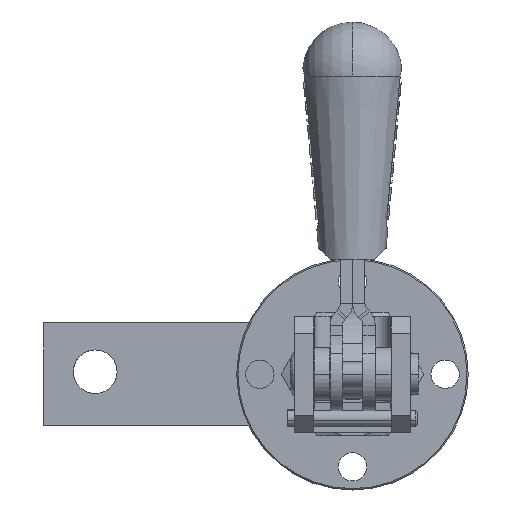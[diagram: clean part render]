
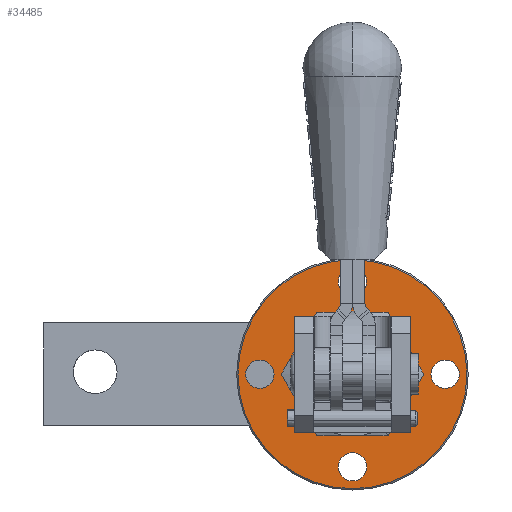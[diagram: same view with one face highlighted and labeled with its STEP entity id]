
A CAD part, front view. The second image highlights one B-rep face of the part: STEP entity #34485.
In plain terms, the highlighted planar face has unit normal (0, -1, 0).
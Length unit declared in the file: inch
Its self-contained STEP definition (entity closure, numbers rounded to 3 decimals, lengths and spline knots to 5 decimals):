
#31751=CARTESIAN_POINT('',(0.,-0.23622,0.));
#31752=DIRECTION('',(0.,-1.,0.));
#31753=DIRECTION('',(0.,0.,-1.));
#31754=AXIS2_PLACEMENT_3D('',#31751,#31752,#31753);
#31759=CARTESIAN_POINT('',(0.,-0.23622,0.));
#31760=DIRECTION('',(0.,-1.,0.));
#31761=DIRECTION('',(0.,0.,1.));
#31762=AXIS2_PLACEMENT_3D('',#31759,#31760,#31761);
#31767=CARTESIAN_POINT('',(0.,-0.23622,0.));
#31768=DIRECTION('',(0.,1.,0.));
#31769=DIRECTION('',(0.,0.,-1.));
#31770=AXIS2_PLACEMENT_3D('',#31767,#31768,#31769);
#31775=CARTESIAN_POINT('',(0.,-0.23622,0.));
#31776=DIRECTION('',(0.,1.,0.));
#31777=DIRECTION('',(0.,0.,1.));
#31778=AXIS2_PLACEMENT_3D('',#31775,#31776,#31777);
#31783=CARTESIAN_POINT('',(-0.70866,-0.23622,0.));
#31784=DIRECTION('',(0.,1.,0.));
#31785=DIRECTION('',(1.,0.,0.));
#31786=AXIS2_PLACEMENT_3D('',#31783,#31784,#31785);
#31791=CARTESIAN_POINT('',(-0.70866,-0.23622,0.));
#31792=DIRECTION('',(0.,1.,0.));
#31793=DIRECTION('',(-1.,0.,0.));
#31794=AXIS2_PLACEMENT_3D('',#31791,#31792,#31793);
#31799=CARTESIAN_POINT('',(0.,-0.23622,-0.70866));
#31800=DIRECTION('',(0.,1.,0.));
#31801=DIRECTION('',(0.,0.,1.));
#31802=AXIS2_PLACEMENT_3D('',#31799,#31800,#31801);
#31807=CARTESIAN_POINT('',(0.,-0.23622,-0.70866));
#31808=DIRECTION('',(0.,1.,0.));
#31809=DIRECTION('',(0.,0.,-1.));
#31810=AXIS2_PLACEMENT_3D('',#31807,#31808,#31809);
#31815=CARTESIAN_POINT('',(0.70866,-0.23622,0.));
#31816=DIRECTION('',(0.,1.,0.));
#31817=DIRECTION('',(-1.,0.,0.));
#31818=AXIS2_PLACEMENT_3D('',#31815,#31816,#31817);
#31823=CARTESIAN_POINT('',(0.70866,-0.23622,0.));
#31824=DIRECTION('',(0.,1.,0.));
#31825=DIRECTION('',(1.,0.,0.));
#31826=AXIS2_PLACEMENT_3D('',#31823,#31824,#31825);
#31831=CARTESIAN_POINT('',(0.,-0.23622,0.70866));
#31832=DIRECTION('',(0.,1.,0.));
#31833=DIRECTION('',(0.,0.,-1.));
#31834=AXIS2_PLACEMENT_3D('',#31831,#31832,#31833);
#31839=CARTESIAN_POINT('',(0.,-0.23622,0.70866));
#31840=DIRECTION('',(0.,1.,0.));
#31841=DIRECTION('',(0.,0.,1.));
#31842=AXIS2_PLACEMENT_3D('',#31839,#31840,#31841);
#32198=CARTESIAN_POINT('',(0.,-0.23622,0.81693));
#32199=CARTESIAN_POINT('',(0.,-0.23622,0.60039));
#32200=VERTEX_POINT('',#32198);
#32201=VERTEX_POINT('',#32199);
#32245=CARTESIAN_POINT('',(0.,-0.23622,-0.81693));
#32247=VERTEX_POINT('',#32245);
#32315=CARTESIAN_POINT('',(0.,-0.23622,-0.60039));
#32316=VERTEX_POINT('',#32315);
#32321=CARTESIAN_POINT('',(0.60039,-0.23622,0.));
#32322=CARTESIAN_POINT('',(0.81693,-0.23622,0.));
#32323=VERTEX_POINT('',#32321);
#32324=VERTEX_POINT('',#32322);
#32325=CARTESIAN_POINT('',(0.,-0.23622,-0.87598));
#32326=VERTEX_POINT('',#32325);
#32353=CARTESIAN_POINT('',(0.,-0.23622,0.87598));
#32354=VERTEX_POINT('',#32353);
#32360=CARTESIAN_POINT('',(-0.81693,-0.23622,0.));
#32362=VERTEX_POINT('',#32360);
#32389=CARTESIAN_POINT('',(0.,-0.23622,0.3987));
#32390=VERTEX_POINT('',#32389);
#32399=CARTESIAN_POINT('',(0.,-0.23622,-0.3987));
#32400=VERTEX_POINT('',#32399);
#32415=CARTESIAN_POINT('',(-0.60039,-0.23622,0.));
#32416=VERTEX_POINT('',#32415);
#34445=CARTESIAN_POINT('',(0.,-0.23622,-0.88583));
#34446=DIRECTION('',(0.,1.,0.));
#34447=DIRECTION('',(0.,0.,1.));
#34448=AXIS2_PLACEMENT_3D('',#34445,#34446,#34447);
#34449=PLANE('',#34448);
#34450=ORIENTED_EDGE('',*,*,#34423,.F.);
#34452=ORIENTED_EDGE('',*,*,#34451,.F.);
#34453=EDGE_LOOP('',(#34450,#34452));
#34454=FACE_OUTER_BOUND('',#34453,.F.);
#34456=ORIENTED_EDGE('',*,*,#34455,.F.);
#34458=ORIENTED_EDGE('',*,*,#34457,.F.);
#34459=EDGE_LOOP('',(#34456,#34458));
#34460=FACE_BOUND('',#34459,.F.);
#34462=ORIENTED_EDGE('',*,*,#34461,.F.);
#34464=ORIENTED_EDGE('',*,*,#34463,.F.);
#34465=EDGE_LOOP('',(#34462,#34464));
#34466=FACE_BOUND('',#34465,.F.);
#34468=ORIENTED_EDGE('',*,*,#34467,.F.);
#34470=ORIENTED_EDGE('',*,*,#34469,.F.);
#34471=EDGE_LOOP('',(#34468,#34470));
#34472=FACE_BOUND('',#34471,.F.);
#34474=ORIENTED_EDGE('',*,*,#34473,.F.);
#34476=ORIENTED_EDGE('',*,*,#34475,.F.);
#34477=EDGE_LOOP('',(#34474,#34476));
#34478=FACE_BOUND('',#34477,.F.);
#34480=ORIENTED_EDGE('',*,*,#34479,.F.);
#34482=ORIENTED_EDGE('',*,*,#34481,.F.);
#34483=EDGE_LOOP('',(#34480,#34482));
#34484=FACE_BOUND('',#34483,.F.);
#31755=CIRCLE('',#31754,0.87598);
#31763=CIRCLE('',#31762,0.87598);
#31771=CIRCLE('',#31770,0.3987);
#31779=CIRCLE('',#31778,0.3987);
#31787=CIRCLE('',#31786,0.10827);
#31795=CIRCLE('',#31794,0.10827);
#31803=CIRCLE('',#31802,0.10827);
#31811=CIRCLE('',#31810,0.10827);
#31819=CIRCLE('',#31818,0.10827);
#31827=CIRCLE('',#31826,0.10827);
#31835=CIRCLE('',#31834,0.10827);
#31843=CIRCLE('',#31842,0.10827);
#34423=EDGE_CURVE('',#32326,#32354,#31755,.T.);
#34451=EDGE_CURVE('',#32354,#32326,#31763,.T.);
#34455=EDGE_CURVE('',#32400,#32390,#31771,.T.);
#34457=EDGE_CURVE('',#32390,#32400,#31779,.T.);
#34461=EDGE_CURVE('',#32416,#32362,#31787,.T.);
#34463=EDGE_CURVE('',#32362,#32416,#31795,.T.);
#34467=EDGE_CURVE('',#32316,#32247,#31803,.T.);
#34469=EDGE_CURVE('',#32247,#32316,#31811,.T.);
#34473=EDGE_CURVE('',#32323,#32324,#31819,.T.);
#34475=EDGE_CURVE('',#32324,#32323,#31827,.T.);
#34479=EDGE_CURVE('',#32201,#32200,#31835,.T.);
#34481=EDGE_CURVE('',#32200,#32201,#31843,.T.);
#34485=ADVANCED_FACE('',(#34454,#34460,#34466,#34472,#34478,#34484),#34449,.F.);
